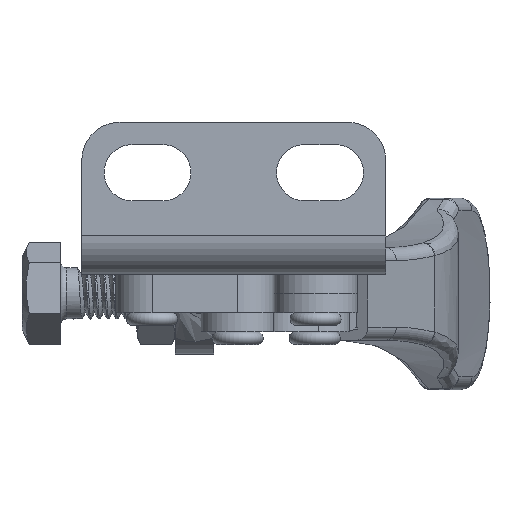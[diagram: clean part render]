
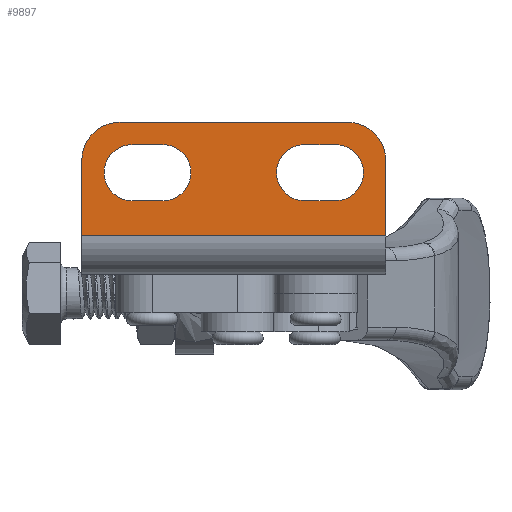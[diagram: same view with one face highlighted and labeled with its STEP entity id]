
A CAD part, front view. The second image highlights one B-rep face of the part: STEP entity #9897.
In plain terms, the highlighted planar face has unit normal (0, -1, 0).
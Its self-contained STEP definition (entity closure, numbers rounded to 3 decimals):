
#285=CIRCLE('',#10498,3.);
#286=CIRCLE('',#10499,3.);
#287=CIRCLE('',#10500,2.2);
#288=CIRCLE('',#10501,2.2);
#289=CIRCLE('',#10502,2.2);
#290=CIRCLE('',#10503,2.2);
#676=FACE_BOUND('',#1976,.T.);
#677=FACE_BOUND('',#1977,.T.);
#1402=FACE_OUTER_BOUND('',#1975,.T.);
#1975=EDGE_LOOP('',(#7836,#7837,#7838,#7839,#7840,#7841));
#1976=EDGE_LOOP('',(#7842,#7843,#7844,#7845));
#1977=EDGE_LOOP('',(#7846,#7847,#7848,#7849));
#2620=LINE('',#17519,#3425);
#2745=LINE('',#19990,#3550);
#2748=LINE('',#19997,#3553);
#2751=LINE('',#20005,#3556);
#2752=LINE('',#20009,#3557);
#2753=LINE('',#20013,#3558);
#2754=LINE('',#20017,#3559);
#2755=LINE('',#20021,#3560);
#3425=VECTOR('',#11427,1000.);
#3550=VECTOR('',#11642,1000.);
#3553=VECTOR('',#11649,1000.);
#3556=VECTOR('',#11656,1000.);
#3557=VECTOR('',#11659,1000.);
#3558=VECTOR('',#11662,1000.);
#3559=VECTOR('',#11665,1000.);
#3560=VECTOR('',#11668,1000.);
#4323=VERTEX_POINT('',#17515);
#4324=VERTEX_POINT('',#17517);
#4453=VERTEX_POINT('',#19989);
#4455=VERTEX_POINT('',#19996);
#4457=VERTEX_POINT('',#20002);
#4458=VERTEX_POINT('',#20004);
#4459=VERTEX_POINT('',#20007);
#4460=VERTEX_POINT('',#20008);
#4461=VERTEX_POINT('',#20010);
#4462=VERTEX_POINT('',#20012);
#4463=VERTEX_POINT('',#20015);
#4464=VERTEX_POINT('',#20016);
#4465=VERTEX_POINT('',#20018);
#4466=VERTEX_POINT('',#20020);
#5454=EDGE_CURVE('',#4323,#4324,#2620,.T.);
#5672=EDGE_CURVE('',#4324,#4453,#2745,.T.);
#5675=EDGE_CURVE('',#4455,#4323,#2748,.T.);
#5678=EDGE_CURVE('',#4453,#4457,#285,.T.);
#5679=EDGE_CURVE('',#4457,#4458,#2751,.T.);
#5680=EDGE_CURVE('',#4458,#4455,#286,.T.);
#5681=EDGE_CURVE('',#4459,#4460,#2752,.T.);
#5682=EDGE_CURVE('',#4461,#4459,#287,.T.);
#5683=EDGE_CURVE('',#4462,#4461,#2753,.T.);
#5684=EDGE_CURVE('',#4460,#4462,#288,.T.);
#5685=EDGE_CURVE('',#4463,#4464,#2754,.T.);
#5686=EDGE_CURVE('',#4465,#4463,#289,.T.);
#5687=EDGE_CURVE('',#4466,#4465,#2755,.T.);
#5688=EDGE_CURVE('',#4464,#4466,#290,.T.);
#7836=ORIENTED_EDGE('',*,*,#5675,.T.);
#7837=ORIENTED_EDGE('',*,*,#5454,.T.);
#7838=ORIENTED_EDGE('',*,*,#5672,.T.);
#7839=ORIENTED_EDGE('',*,*,#5678,.T.);
#7840=ORIENTED_EDGE('',*,*,#5679,.T.);
#7841=ORIENTED_EDGE('',*,*,#5680,.T.);
#7842=ORIENTED_EDGE('',*,*,#5681,.F.);
#7843=ORIENTED_EDGE('',*,*,#5682,.F.);
#7844=ORIENTED_EDGE('',*,*,#5683,.F.);
#7845=ORIENTED_EDGE('',*,*,#5684,.F.);
#7846=ORIENTED_EDGE('',*,*,#5685,.F.);
#7847=ORIENTED_EDGE('',*,*,#5686,.F.);
#7848=ORIENTED_EDGE('',*,*,#5687,.F.);
#7849=ORIENTED_EDGE('',*,*,#5688,.F.);
#9529=PLANE('',#10497);
#9897=ADVANCED_FACE('',(#1402,#676,#677),#9529,.T.);
#10497=AXIS2_PLACEMENT_3D('',#20001,#11652,#11653);
#10498=AXIS2_PLACEMENT_3D('',#20003,#11654,#11655);
#10499=AXIS2_PLACEMENT_3D('',#20006,#11657,#11658);
#10500=AXIS2_PLACEMENT_3D('',#20011,#11660,#11661);
#10501=AXIS2_PLACEMENT_3D('',#20014,#11663,#11664);
#10502=AXIS2_PLACEMENT_3D('',#20019,#11666,#11667);
#10503=AXIS2_PLACEMENT_3D('',#20022,#11669,#11670);
#11427=DIRECTION('',(1.,0.,0.));
#11642=DIRECTION('',(0.,0.,1.));
#11649=DIRECTION('',(0.,0.,-1.));
#11652=DIRECTION('center_axis',(0.,-1.,0.));
#11653=DIRECTION('ref_axis',(0.,0.,-1.));
#11654=DIRECTION('center_axis',(0.,-1.,0.));
#11655=DIRECTION('ref_axis',(0.,0.,-1.));
#11656=DIRECTION('',(-1.,0.,0.));
#11657=DIRECTION('center_axis',(0.,-1.,0.));
#11658=DIRECTION('ref_axis',(0.,0.,1.));
#11659=DIRECTION('',(1.,0.,0.));
#11660=DIRECTION('center_axis',(0.,-1.,0.));
#11661=DIRECTION('ref_axis',(0.,0.,1.));
#11662=DIRECTION('',(-1.,0.,0.));
#11663=DIRECTION('center_axis',(0.,-1.,0.));
#11664=DIRECTION('ref_axis',(0.,0.,1.));
#11665=DIRECTION('',(-1.,0.,0.));
#11666=DIRECTION('center_axis',(0.,-1.,0.));
#11667=DIRECTION('ref_axis',(0.,0.,-1.));
#11668=DIRECTION('',(1.,0.,0.));
#11669=DIRECTION('center_axis',(0.,-1.,0.));
#11670=DIRECTION('ref_axis',(0.,0.,-1.));
#17515=CARTESIAN_POINT('',(-11.9,0.,3.));
#17517=CARTESIAN_POINT('',(11.9,0.,3.));
#17519=CARTESIAN_POINT('',(11.9,0.,3.));
#19989=CARTESIAN_POINT('',(11.9,0.,8.9));
#19990=CARTESIAN_POINT('',(11.9,0.,0.));
#19996=CARTESIAN_POINT('',(-11.9,0.,8.9));
#19997=CARTESIAN_POINT('',(-11.9,0.,0.));
#20001=CARTESIAN_POINT('Origin',(8.9,0.,8.9));
#20002=CARTESIAN_POINT('',(8.9,0.,11.9));
#20003=CARTESIAN_POINT('Origin',(8.9,0.,8.9));
#20004=CARTESIAN_POINT('',(-8.9,0.,11.9));
#20005=CARTESIAN_POINT('',(8.9,0.,11.9));
#20006=CARTESIAN_POINT('Origin',(-8.9,0.,8.9));
#20007=CARTESIAN_POINT('',(-7.95,0.,5.75));
#20008=CARTESIAN_POINT('',(-5.55,0.,5.75));
#20009=CARTESIAN_POINT('',(-7.95,0.,5.75));
#20010=CARTESIAN_POINT('',(-7.95,0.,10.15));
#20011=CARTESIAN_POINT('Origin',(-7.95,0.,7.95));
#20012=CARTESIAN_POINT('',(-5.55,0.,10.15));
#20013=CARTESIAN_POINT('',(-7.95,0.,10.15));
#20014=CARTESIAN_POINT('Origin',(-5.55,0.,7.95));
#20015=CARTESIAN_POINT('',(7.95,0.,10.15));
#20016=CARTESIAN_POINT('',(5.55,0.,10.15));
#20017=CARTESIAN_POINT('',(7.95,0.,10.15));
#20018=CARTESIAN_POINT('',(7.95,0.,5.75));
#20019=CARTESIAN_POINT('Origin',(7.95,0.,7.95));
#20020=CARTESIAN_POINT('',(5.55,0.,5.75));
#20021=CARTESIAN_POINT('',(7.95,0.,5.75));
#20022=CARTESIAN_POINT('Origin',(5.55,0.,7.95));
